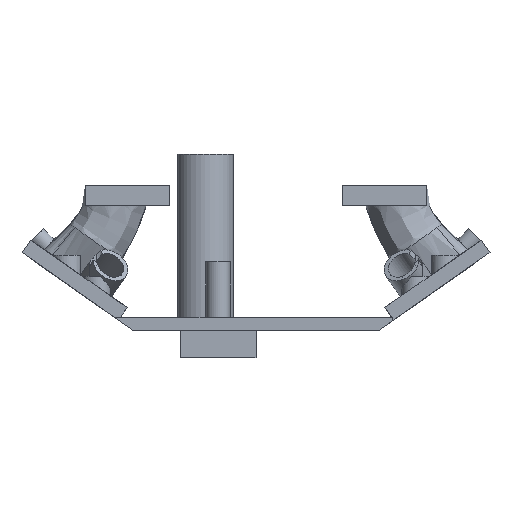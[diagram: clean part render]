
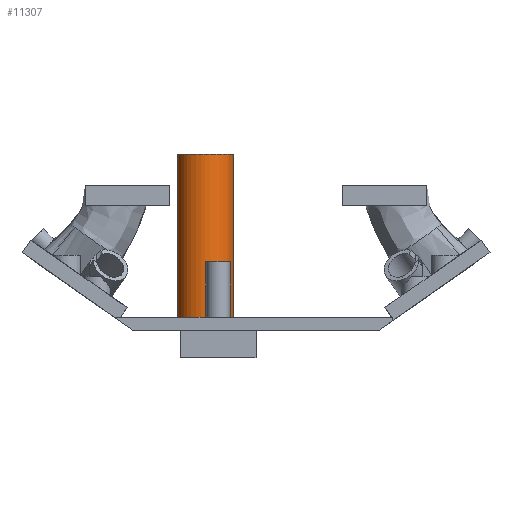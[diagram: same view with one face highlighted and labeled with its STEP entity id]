
A CAD part, left-side view. The second image highlights one B-rep face of the part: STEP entity #11307.
In plain terms, the highlighted cylindrical face has radius 22 mm (diameter 44 mm), a full revolution.
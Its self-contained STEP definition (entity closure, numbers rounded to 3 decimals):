
#476 = PLANE('',#477);
#477 = AXIS2_PLACEMENT_3D('',#478,#479,#480);
#478 = CARTESIAN_POINT('',(172.25,2.523,316.));
#479 = DIRECTION('',(0.,0.,1.));
#480 = DIRECTION('',(1.,0.,-0.));
#1276 = PLANE('',#1277);
#1277 = AXIS2_PLACEMENT_3D('',#1278,#1279,#1280);
#1278 = CARTESIAN_POINT('',(425.,40.,445.));
#1279 = DIRECTION('',(0.,0.,1.));
#1280 = DIRECTION('',(1.,0.,-0.));
#1420 = EDGE_CURVE('',#1421,#1421,#1423,.T.);
#1421 = VERTEX_POINT('',#1422);
#1422 = CARTESIAN_POINT('',(447.,40.,316.));
#1423 = SURFACE_CURVE('',#1424,(#1429,#1436),.PCURVE_S1.);
#1424 = CIRCLE('',#1425,22.);
#1425 = AXIS2_PLACEMENT_3D('',#1426,#1427,#1428);
#1426 = CARTESIAN_POINT('',(425.,40.,316.));
#1427 = DIRECTION('',(0.,0.,1.));
#1428 = DIRECTION('',(1.,0.,-0.));
#1429 = PCURVE('',#476,#1430);
#1430 = DEFINITIONAL_REPRESENTATION('',(#1431),#1435);
#1431 = CIRCLE('',#1432,22.);
#1432 = AXIS2_PLACEMENT_2D('',#1433,#1434);
#1433 = CARTESIAN_POINT('',(252.75,37.477));
#1434 = DIRECTION('',(1.,0.));
#1435 = ( GEOMETRIC_REPRESENTATION_CONTEXT(2) 
PARAMETRIC_REPRESENTATION_CONTEXT() REPRESENTATION_CONTEXT('2D SPACE',''
  ) );
#1436 = PCURVE('',#1437,#1442);
#1437 = CYLINDRICAL_SURFACE('',#1438,22.);
#1438 = AXIS2_PLACEMENT_3D('',#1439,#1440,#1441);
#1439 = CARTESIAN_POINT('',(425.,40.,306.));
#1440 = DIRECTION('',(0.,0.,1.));
#1441 = DIRECTION('',(1.,0.,-0.));
#1442 = DEFINITIONAL_REPRESENTATION('',(#1443),#1447);
#1443 = LINE('',#1444,#1445);
#1444 = CARTESIAN_POINT('',(0.,10.));
#1445 = VECTOR('',#1446,1.);
#1446 = DIRECTION('',(1.,0.));
#1447 = ( GEOMETRIC_REPRESENTATION_CONTEXT(2) 
PARAMETRIC_REPRESENTATION_CONTEXT() REPRESENTATION_CONTEXT('2D SPACE',''
  ) );
#11176 = EDGE_CURVE('',#11177,#11177,#11179,.T.);
#11177 = VERTEX_POINT('',#11178);
#11178 = CARTESIAN_POINT('',(447.,40.,445.));
#11179 = SURFACE_CURVE('',#11180,(#11185,#11192),.PCURVE_S1.);
#11180 = CIRCLE('',#11181,22.);
#11181 = AXIS2_PLACEMENT_3D('',#11182,#11183,#11184);
#11182 = CARTESIAN_POINT('',(425.,40.,445.));
#11183 = DIRECTION('',(0.,0.,1.));
#11184 = DIRECTION('',(1.,0.,-0.));
#11185 = PCURVE('',#1276,#11186);
#11186 = DEFINITIONAL_REPRESENTATION('',(#11187),#11191);
#11187 = CIRCLE('',#11188,22.);
#11188 = AXIS2_PLACEMENT_2D('',#11189,#11190);
#11189 = CARTESIAN_POINT('',(0.,0.));
#11190 = DIRECTION('',(1.,0.));
#11191 = ( GEOMETRIC_REPRESENTATION_CONTEXT(2) 
PARAMETRIC_REPRESENTATION_CONTEXT() REPRESENTATION_CONTEXT('2D SPACE',''
  ) );
#11192 = PCURVE('',#1437,#11193);
#11193 = DEFINITIONAL_REPRESENTATION('',(#11194),#11198);
#11194 = LINE('',#11195,#11196);
#11195 = CARTESIAN_POINT('',(0.,139.));
#11196 = VECTOR('',#11197,1.);
#11197 = DIRECTION('',(1.,0.));
#11198 = ( GEOMETRIC_REPRESENTATION_CONTEXT(2) 
PARAMETRIC_REPRESENTATION_CONTEXT() REPRESENTATION_CONTEXT('2D SPACE',''
  ) );
#11307 = ADVANCED_FACE('',(#11308),#1437,.T.);
#11308 = FACE_BOUND('',#11309,.T.);
#11309 = EDGE_LOOP('',(#11310,#11331,#11332,#11333));
#11310 = ORIENTED_EDGE('',*,*,#11311,.T.);
#11311 = EDGE_CURVE('',#1421,#11177,#11312,.T.);
#11312 = SEAM_CURVE('',#11313,(#11317,#11324),.PCURVE_S1.);
#11313 = LINE('',#11314,#11315);
#11314 = CARTESIAN_POINT('',(447.,40.,306.));
#11315 = VECTOR('',#11316,1.);
#11316 = DIRECTION('',(0.,0.,1.));
#11317 = PCURVE('',#1437,#11318);
#11318 = DEFINITIONAL_REPRESENTATION('',(#11319),#11323);
#11319 = LINE('',#11320,#11321);
#11320 = CARTESIAN_POINT('',(6.283,-0.));
#11321 = VECTOR('',#11322,1.);
#11322 = DIRECTION('',(0.,1.));
#11323 = ( GEOMETRIC_REPRESENTATION_CONTEXT(2) 
PARAMETRIC_REPRESENTATION_CONTEXT() REPRESENTATION_CONTEXT('2D SPACE',''
  ) );
#11324 = PCURVE('',#1437,#11325);
#11325 = DEFINITIONAL_REPRESENTATION('',(#11326),#11330);
#11326 = LINE('',#11327,#11328);
#11327 = CARTESIAN_POINT('',(0.,-0.));
#11328 = VECTOR('',#11329,1.);
#11329 = DIRECTION('',(0.,1.));
#11330 = ( GEOMETRIC_REPRESENTATION_CONTEXT(2) 
PARAMETRIC_REPRESENTATION_CONTEXT() REPRESENTATION_CONTEXT('2D SPACE',''
  ) );
#11331 = ORIENTED_EDGE('',*,*,#11176,.F.);
#11332 = ORIENTED_EDGE('',*,*,#11311,.F.);
#11333 = ORIENTED_EDGE('',*,*,#1420,.T.);
